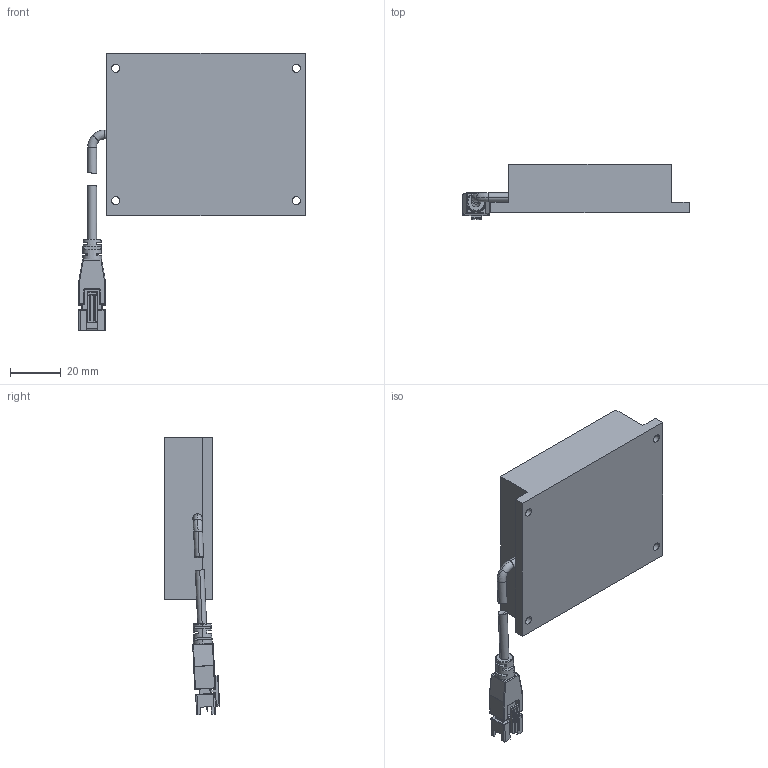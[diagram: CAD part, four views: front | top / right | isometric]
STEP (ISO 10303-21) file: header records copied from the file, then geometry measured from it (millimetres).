
FILE_DESCRIPTION((''),'2;1');
FILE_NAME('MV-LBSS-50-50_ASM','2019-09-19T',('Administrator'),(''),'PRO/ENGINEER BY PARAMETRIC TECHNOLOGY CORPORATION, 2010100','PRO/ENGINEER BY PARAMETRIC TECHNOLOGY CORPORATION, 2010100','');
FILE_SCHEMA(('CONFIG_CONTROL_DESIGN'));
Length unit declared in the file: millimetre
Products named in the file (5): WAIKE_3; LINE_TOU_74; BODY_12_5; ASSY_ASM_20_ASM; MV-LBSS-50-50_ASM
Assembly tree (4 placements, depth 3):
  MV-LBSS-50-50_ASM
    WAIKE_3
    ASSY_ASM_20_ASM
      LINE_TOU_74
      BODY_12_5
Bounding box: 89.01 x 21.67 x 109.19 mm (x, y, z)
Volume: 82468.6 mm3; surface area: 17666.6 mm2
Topology: 3 solids, 3 shells, 251 faces, 649 edges, 407 vertices
Faces by surface type: plane 143, cylinder 78, torus 12, bspline 8, sphere 8, cone 2
Entity records: 7897 total; most frequent: CARTESIAN_POINT 1623, DIRECTION 1301, ORIENTED_EDGE 1282, EDGE_CURVE 641, AXIS2_PLACEMENT_3D 444, VECTOR 413, LINE 413, VERTEX_POINT 407
